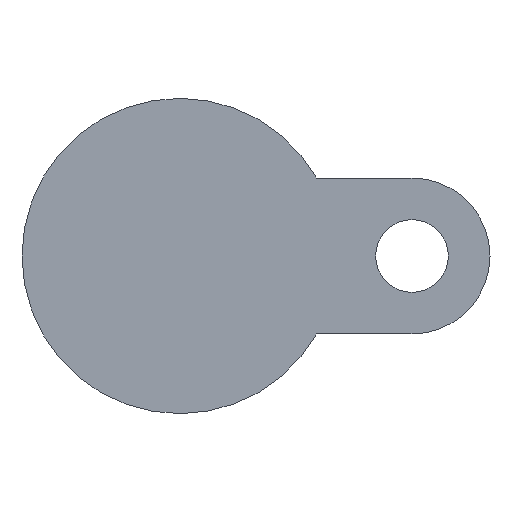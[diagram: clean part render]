
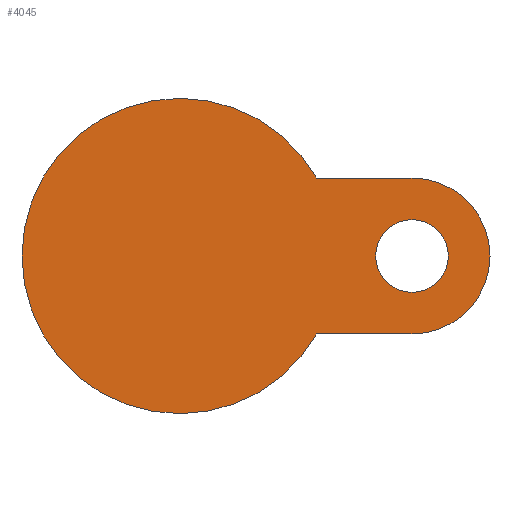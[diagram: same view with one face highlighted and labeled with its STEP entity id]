
A CAD part, front view. The second image highlights one B-rep face of the part: STEP entity #4045.
In plain terms, the highlighted planar face has unit normal (0, -1, 0).
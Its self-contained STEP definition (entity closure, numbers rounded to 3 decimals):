
#18 = DIRECTION ( 'NONE',  ( 0., -1., 0. ) ) ;
#60 = EDGE_LOOP ( 'NONE', ( #1426, #4201 ) ) ;
#91 = ORIENTED_EDGE ( 'NONE', *, *, #2691, .T. ) ;
#199 = ORIENTED_EDGE ( 'NONE', *, *, #2171, .F. ) ;
#200 = DIRECTION ( 'NONE',  ( 1., 0., 0. ) ) ;
#293 = EDGE_CURVE ( 'NONE', #2193, #3655, #1228, .T. ) ;
#373 = CARTESIAN_POINT ( 'NONE',  ( 56., -17., 18.8 ) ) ;
#460 = CARTESIAN_POINT ( 'NONE',  ( 56., -17., -18.8 ) ) ;
#466 = CARTESIAN_POINT ( 'NONE',  ( 0., -17., 0. ) ) ;
#524 = CARTESIAN_POINT ( 'NONE',  ( 0., -17., 0. ) ) ;
#540 = ORIENTED_EDGE ( 'NONE', *, *, #2606, .T. ) ;
#554 = FACE_BOUND ( 'NONE', #60, .T. ) ;
#582 = CIRCLE ( 'NONE', #3597, 38. ) ;
#645 = DIRECTION ( 'NONE',  ( 0., -1., 0. ) ) ;
#761 = VECTOR ( 'NONE', #3119, 1000. ) ;
#763 = ORIENTED_EDGE ( 'NONE', *, *, #1175, .F. ) ;
#1054 = DIRECTION ( 'NONE',  ( 1., 0., 0. ) ) ;
#1175 = EDGE_CURVE ( 'NONE', #2167, #2164, #4162, .T. ) ;
#1226 = ORIENTED_EDGE ( 'NONE', *, *, #2480, .T. ) ;
#1228 = CIRCLE ( 'NONE', #2387, 8.75 ) ;
#1238 = DIRECTION ( 'NONE',  ( 1., 0., 0. ) ) ;
#1280 = CARTESIAN_POINT ( 'NONE',  ( 74.8, -17., 0. ) ) ;
#1324 = DIRECTION ( 'NONE',  ( -1., 0., 0. ) ) ;
#1338 = DIRECTION ( 'NONE',  ( 1., 0., 0. ) ) ;
#1426 = ORIENTED_EDGE ( 'NONE', *, *, #293, .F. ) ;
#1530 = CARTESIAN_POINT ( 'NONE',  ( 56., -17., -18.8 ) ) ;
#1735 = DIRECTION ( 'NONE',  ( 0., 1., 0. ) ) ;
#1763 = AXIS2_PLACEMENT_3D ( 'NONE', #524, #2211, #3907 ) ;
#1851 = EDGE_LOOP ( 'NONE', ( #199, #91, #1226, #540, #4729, #763 ) ) ;
#1970 = EDGE_CURVE ( 'NONE', #3655, #2193, #3154, .T. ) ;
#2151 = CARTESIAN_POINT ( 'NONE',  ( 56., -17., 0. ) ) ;
#2164 = VERTEX_POINT ( 'NONE', #3764 ) ;
#2167 = VERTEX_POINT ( 'NONE', #4266 ) ;
#2171 = EDGE_CURVE ( 'NONE', #5270, #2167, #582, .T. ) ;
#2193 = VERTEX_POINT ( 'NONE', #5047 ) ;
#2211 = DIRECTION ( 'NONE',  ( 0., 1., 0. ) ) ;
#2237 = CARTESIAN_POINT ( 'NONE',  ( 0., -17., 0. ) ) ;
#2265 = PLANE ( 'NONE',  #5420 ) ;
#2272 = DIRECTION ( 'NONE',  ( 1., 0., 0. ) ) ;
#2302 = DIRECTION ( 'NONE',  ( 0., -1., 0. ) ) ;
#2308 = LINE ( 'NONE', #3529, #761 ) ;
#2332 = DIRECTION ( 'NONE',  ( 0., -1., 0. ) ) ;
#2347 = EDGE_CURVE ( 'NONE', #3437, #2164, #2308, .T. ) ;
#2387 = AXIS2_PLACEMENT_3D ( 'NONE', #2151, #18, #1238 ) ;
#2480 = EDGE_CURVE ( 'NONE', #4564, #3458, #4130, .T. ) ;
#2606 = EDGE_CURVE ( 'NONE', #3458, #3437, #4435, .T. ) ;
#2691 = EDGE_CURVE ( 'NONE', #5270, #4564, #3639, .T. ) ;
#2782 = CARTESIAN_POINT ( 'NONE',  ( 56., -17., 0. ) ) ;
#3119 = DIRECTION ( 'NONE',  ( -1., 0., 0. ) ) ;
#3129 = CARTESIAN_POINT ( 'NONE',  ( 33.024, -17., -18.8 ) ) ;
#3154 = CIRCLE ( 'NONE', #4747, 8.75 ) ;
#3156 = AXIS2_PLACEMENT_3D ( 'NONE', #3468, #3883, #1338 ) ;
#3437 = VERTEX_POINT ( 'NONE', #373 ) ;
#3447 = VECTOR ( 'NONE', #4927, 1000. ) ;
#3458 = VERTEX_POINT ( 'NONE', #1280 ) ;
#3468 = CARTESIAN_POINT ( 'NONE',  ( 56., -17., 0. ) ) ;
#3529 = CARTESIAN_POINT ( 'NONE',  ( 20.593, -17., 18.8 ) ) ;
#3597 = AXIS2_PLACEMENT_3D ( 'NONE', #466, #1735, #1324 ) ;
#3639 = LINE ( 'NONE', #1530, #3447 ) ;
#3655 = VERTEX_POINT ( 'NONE', #4999 ) ;
#3764 = CARTESIAN_POINT ( 'NONE',  ( 33.024, -17., 18.8 ) ) ;
#3883 = DIRECTION ( 'NONE',  ( 0., -1., 0. ) ) ;
#3907 = DIRECTION ( 'NONE',  ( -1., 0., 0. ) ) ;
#3962 = FACE_OUTER_BOUND ( 'NONE', #1851, .T. ) ;
#4045 = ADVANCED_FACE ( 'NONE', ( #3962, #554 ), #2265, .T. ) ;
#4130 = CIRCLE ( 'NONE', #3156, 18.8 ) ;
#4162 = CIRCLE ( 'NONE', #1763, 38. ) ;
#4201 = ORIENTED_EDGE ( 'NONE', *, *, #1970, .F. ) ;
#4266 = CARTESIAN_POINT ( 'NONE',  ( -38., -17., 0. ) ) ;
#4435 = CIRCLE ( 'NONE', #5332, 18.8 ) ;
#4564 = VERTEX_POINT ( 'NONE', #460 ) ;
#4729 = ORIENTED_EDGE ( 'NONE', *, *, #2347, .T. ) ;
#4747 = AXIS2_PLACEMENT_3D ( 'NONE', #5175, #2302, #200 ) ;
#4927 = DIRECTION ( 'NONE',  ( 1., 0., 0. ) ) ;
#4999 = CARTESIAN_POINT ( 'NONE',  ( 47.25, -17., 0. ) ) ;
#5047 = CARTESIAN_POINT ( 'NONE',  ( 64.75, -17., 0. ) ) ;
#5175 = CARTESIAN_POINT ( 'NONE',  ( 56., -17., 0. ) ) ;
#5270 = VERTEX_POINT ( 'NONE', #3129 ) ;
#5332 = AXIS2_PLACEMENT_3D ( 'NONE', #2782, #2332, #2272 ) ;
#5420 = AXIS2_PLACEMENT_3D ( 'NONE', #2237, #645, #1054 ) ;
